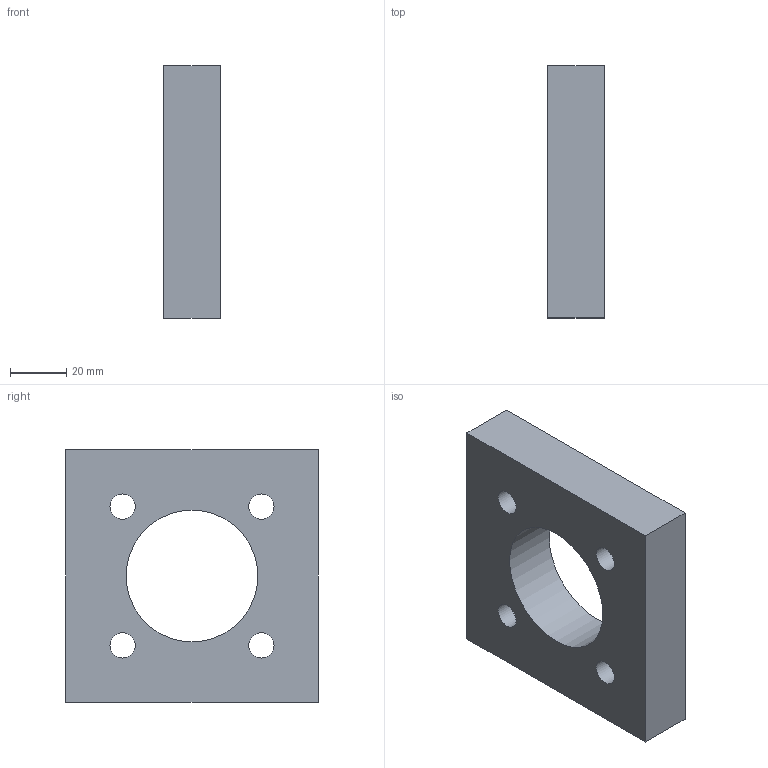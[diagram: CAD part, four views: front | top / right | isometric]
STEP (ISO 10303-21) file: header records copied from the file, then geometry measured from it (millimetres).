
FILE_DESCRIPTION(/* description */ (''),/* implementation_level */ '2;1');
FILE_NAME(/* name */ 'L:\DOKUMENT_DB\Arbeitsordner_Ba\Fachmodule\XXFMFL1_d\Links_Internet\Aufgabe_6-9\Lagerplatte_690002.stp',/* time_stamp */ '2020-01-23T14:37:56+01:00',/* author */ ('ba'),/* organization */ (''),/* preprocessor_version */ 'ST-DEVELOPER v18',/* originating_system */ 'Autodesk Inventor 2020',/* authorisation */ '');
FILE_SCHEMA (('AUTOMOTIVE_DESIGN { 1 0 10303 214 3 1 1 }'));
Length unit declared in the file: millimetre
Products named in the file (1): Lagerplatte
Bounding box: 20 x 90 x 90 mm (x, y, z)
Volume: 122211.7 mm3; surface area: 24636.2 mm2
Topology: 1 solids, 1 shells, 11 faces, 32 edges, 23 vertices
Faces by surface type: plane 6, cylinder 5
Full cylindrical faces by diameter (mm): 9 x4, 47 x1
Entity records: 442 total; most frequent: DIRECTION 71, CARTESIAN_POINT 67, ORIENTED_EDGE 64, EDGE_CURVE 32, AXIS2_PLACEMENT_3D 27, VERTEX_POINT 23, EDGE_LOOP 21, LINE 17
